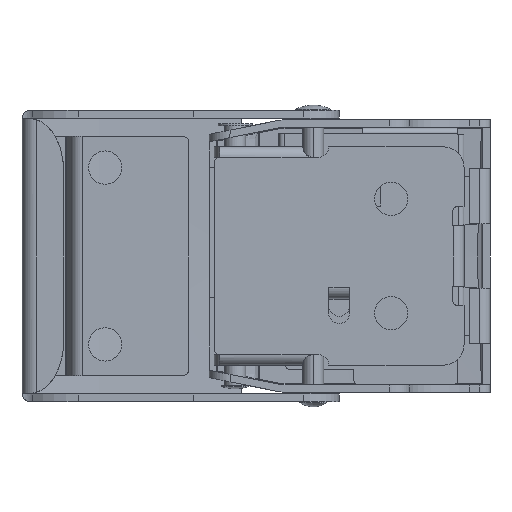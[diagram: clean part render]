
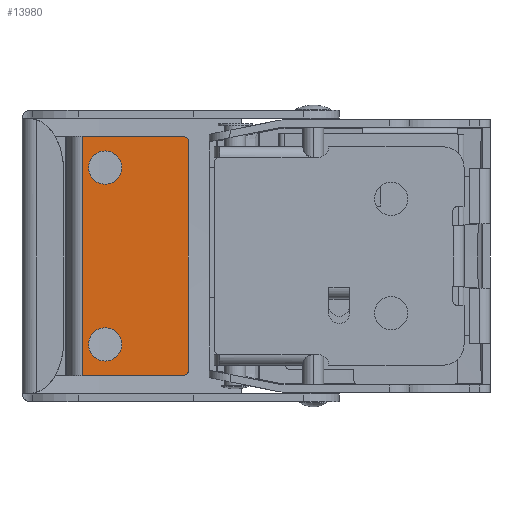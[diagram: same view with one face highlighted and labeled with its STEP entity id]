
A CAD part, front view. The second image highlights one B-rep face of the part: STEP entity #13980.
In plain terms, the highlighted planar face has unit normal (0, -1, 0).
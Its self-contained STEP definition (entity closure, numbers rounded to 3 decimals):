
#979 = CARTESIAN_POINT ( 'NONE',  ( -12.5, 0., -11.5 ) ) ;
#1047 = CIRCLE ( 'NONE', #1048, 0.5 ) ;
#1048 = AXIS2_PLACEMENT_3D ( 'NONE', #1052, #1053, #1054 ) ;
#1052 = CARTESIAN_POINT ( 'NONE',  ( -12.5, 0., -11. ) ) ;
#1053 = DIRECTION ( 'NONE',  ( 0., 1., 0. ) ) ;
#1054 = DIRECTION ( 'NONE',  ( 0., 0., -1. ) ) ;
#1148 = LINE ( 'NONE', #1149, #1150 ) ;
#1149 = CARTESIAN_POINT ( 'NONE',  ( -22.23, 0., 0. ) ) ;
#1150 = VECTOR ( 'NONE', #1151, 1000. ) ;
#1151 = DIRECTION ( 'NONE',  ( 0., 0., 1. ) ) ;
#2509 = CARTESIAN_POINT ( 'NONE',  ( -22.23, 0., -11.5 ) ) ;
#2791 = VERTEX_POINT ( 'NONE', #6774 ) ;
#2970 = ORIENTED_EDGE ( 'NONE', *, *, #4542, .F. ) ;
#3034 = VERTEX_POINT ( 'NONE', #6850 ) ;
#3175 = VERTEX_POINT ( 'NONE', #6913 ) ;
#3285 = EDGE_CURVE ( 'NONE', #3034, #2791, #7034, .T. ) ;
#3344 = VERTEX_POINT ( 'NONE', #7113 ) ;
#3871 = ORIENTED_EDGE ( 'NONE', *, *, #4161, .F. ) ;
#3888 = VERTEX_POINT ( 'NONE', #8423 ) ;
#4003 = ORIENTED_EDGE ( 'NONE', *, *, #9503, .F. ) ;
#4063 = VERTEX_POINT ( 'NONE', #8808 ) ;
#4113 = VERTEX_POINT ( 'NONE', #8950 ) ;
#4161 = EDGE_CURVE ( 'NONE', #4113, #4063, #9086, .T. ) ;
#4400 = ORIENTED_EDGE ( 'NONE', *, *, #12542, .F. ) ;
#4542 = EDGE_CURVE ( 'NONE', #15465, #4113, #10432, .T. ) ;
#4763 = EDGE_CURVE ( 'NONE', #13686, #12380, #10675, .T. ) ;
#5171 = ORIENTED_EDGE ( 'NONE', *, *, #4763, .T. ) ;
#5746 = ORIENTED_EDGE ( 'NONE', *, *, #12721, .F. ) ;
#6312 = EDGE_LOOP ( 'NONE', ( #5746, #5171, #4400, #4003, #3871, #2970 ) ) ;
#6575 = ORIENTED_EDGE ( 'NONE', *, *, #7658, .F. ) ;
#6774 = CARTESIAN_POINT ( 'NONE',  ( -20., 0., 6.9 ) ) ;
#6850 = CARTESIAN_POINT ( 'NONE',  ( -20., 0., 10.1 ) ) ;
#6913 = CARTESIAN_POINT ( 'NONE',  ( -20., 0., -10.1 ) ) ;
#7034 = CIRCLE ( 'NONE', #7035, 1.6 ) ;
#7035 = AXIS2_PLACEMENT_3D ( 'NONE', #7036, #7037, #7038 ) ;
#7036 = CARTESIAN_POINT ( 'NONE',  ( -20., 0., 8.5 ) ) ;
#7037 = DIRECTION ( 'NONE',  ( 0., -1., 0. ) ) ;
#7038 = DIRECTION ( 'NONE',  ( 0., 0., 1. ) ) ;
#7113 = CARTESIAN_POINT ( 'NONE',  ( -20., 0., -6.9 ) ) ;
#7153 = ORIENTED_EDGE ( 'NONE', *, *, #3285, .F. ) ;
#7658 = EDGE_CURVE ( 'NONE', #2791, #3034, #13189, .T. ) ;
#7901 = EDGE_LOOP ( 'NONE', ( #7153, #6575 ) ) ;
#8169 = ORIENTED_EDGE ( 'NONE', *, *, #14145, .F. ) ;
#8423 = CARTESIAN_POINT ( 'NONE',  ( -12., 0., -11. ) ) ;
#8737 = ORIENTED_EDGE ( 'NONE', *, *, #9905, .F. ) ;
#8808 = CARTESIAN_POINT ( 'NONE',  ( -12., 0., 11. ) ) ;
#8950 = CARTESIAN_POINT ( 'NONE',  ( -12.5, 0., 11.5 ) ) ;
#9086 = CIRCLE ( 'NONE', #9087, 0.5 ) ;
#9087 = AXIS2_PLACEMENT_3D ( 'NONE', #9088, #9089, #9090 ) ;
#9088 = CARTESIAN_POINT ( 'NONE',  ( -12.5, 0., 11. ) ) ;
#9089 = DIRECTION ( 'NONE',  ( 0., 1., 0. ) ) ;
#9090 = DIRECTION ( 'NONE',  ( 0., 0., 1. ) ) ;
#9503 = EDGE_CURVE ( 'NONE', #4063, #3888, #15974, .T. ) ;
#9521 = FACE_BOUND ( 'NONE', #13714, .T. ) ;
#9522 = FACE_BOUND ( 'NONE', #7901, .T. ) ;
#9523 = FACE_OUTER_BOUND ( 'NONE', #6312, .T. ) ;
#9524 = PLANE ( 'NONE',  #9525 ) ;
#9525 = AXIS2_PLACEMENT_3D ( 'NONE', #9528, #9529, #9530 ) ;
#9528 = CARTESIAN_POINT ( 'NONE',  ( -22.434, 0., 11.96 ) ) ;
#9529 = DIRECTION ( 'NONE',  ( 0., 1., 0. ) ) ;
#9530 = DIRECTION ( 'NONE',  ( 1., 0., 0. ) ) ;
#9723 = CIRCLE ( 'NONE', #9724, 1.6 ) ;
#9724 = AXIS2_PLACEMENT_3D ( 'NONE', #9725, #9733, #9734 ) ;
#9725 = CARTESIAN_POINT ( 'NONE',  ( -20., 0., -8.5 ) ) ;
#9733 = DIRECTION ( 'NONE',  ( 0., -1., 0. ) ) ;
#9734 = DIRECTION ( 'NONE',  ( 0., 0., 1. ) ) ;
#9905 = EDGE_CURVE ( 'NONE', #3344, #3175, #16182, .T. ) ;
#10432 = LINE ( 'NONE', #10433, #10434 ) ;
#10433 = CARTESIAN_POINT ( 'NONE',  ( -17.115, 0., 11.5 ) ) ;
#10434 = VECTOR ( 'NONE', #10435, 1000. ) ;
#10435 = DIRECTION ( 'NONE',  ( 1., 0., 0. ) ) ;
#10675 = LINE ( 'NONE', #10676, #10677 ) ;
#10676 = CARTESIAN_POINT ( 'NONE',  ( -19.5, 0., -11.5 ) ) ;
#10677 = VECTOR ( 'NONE', #10678, 1000. ) ;
#10678 = DIRECTION ( 'NONE',  ( 1., 0., 0. ) ) ;
#11113 = CARTESIAN_POINT ( 'NONE',  ( -22.23, 0., 11.5 ) ) ;
#12380 = VERTEX_POINT ( 'NONE', #979 ) ;
#12542 = EDGE_CURVE ( 'NONE', #3888, #12380, #1047, .T. ) ;
#12721 = EDGE_CURVE ( 'NONE', #13686, #15465, #1148, .T. ) ;
#13189 = CIRCLE ( 'NONE', #13190, 1.6 ) ;
#13190 = AXIS2_PLACEMENT_3D ( 'NONE', #13191, #13192, #13193 ) ;
#13191 = CARTESIAN_POINT ( 'NONE',  ( -20., 0., 8.5 ) ) ;
#13192 = DIRECTION ( 'NONE',  ( 0., -1., 0. ) ) ;
#13193 = DIRECTION ( 'NONE',  ( 0., 0., 1. ) ) ;
#13686 = VERTEX_POINT ( 'NONE', #2509 ) ;
#13714 = EDGE_LOOP ( 'NONE', ( #8737, #8169 ) ) ;
#13980 = ADVANCED_FACE ( 'NONE', ( #9521, #9522, #9523 ), #9524, .F. ) ;
#14145 = EDGE_CURVE ( 'NONE', #3175, #3344, #9723, .T. ) ;
#15465 = VERTEX_POINT ( 'NONE', #11113 ) ;
#15974 = LINE ( 'NONE', #15975, #15976 ) ;
#15975 = CARTESIAN_POINT ( 'NONE',  ( -12., 0., 0. ) ) ;
#15976 = VECTOR ( 'NONE', #15977, 1000. ) ;
#15977 = DIRECTION ( 'NONE',  ( 0., 0., -1. ) ) ;
#16182 = CIRCLE ( 'NONE', #16183, 1.6 ) ;
#16183 = AXIS2_PLACEMENT_3D ( 'NONE', #16184, #16185, #16186 ) ;
#16184 = CARTESIAN_POINT ( 'NONE',  ( -20., 0., -8.5 ) ) ;
#16185 = DIRECTION ( 'NONE',  ( 0., -1., 0. ) ) ;
#16186 = DIRECTION ( 'NONE',  ( 0., 0., 1. ) ) ;
